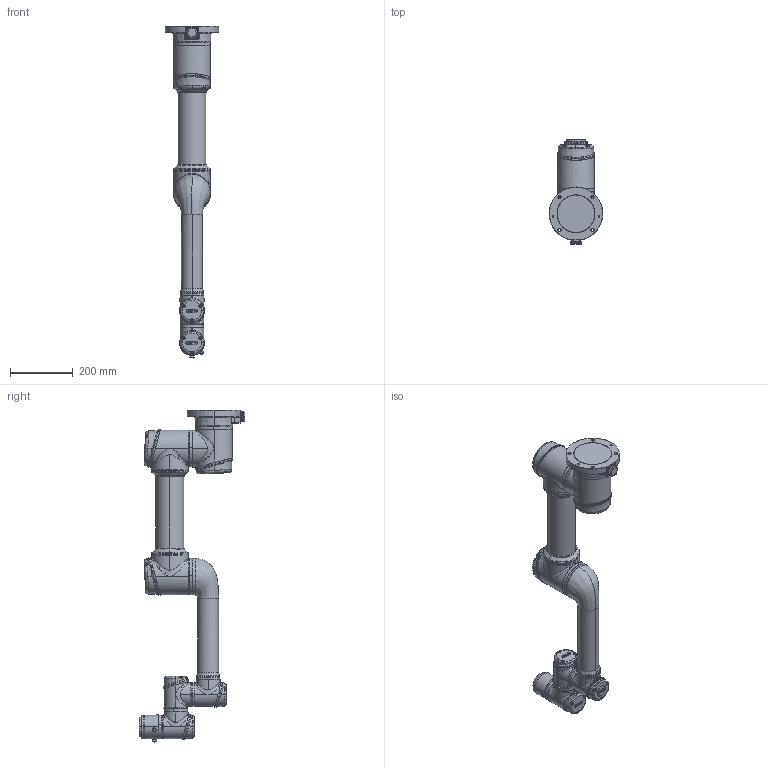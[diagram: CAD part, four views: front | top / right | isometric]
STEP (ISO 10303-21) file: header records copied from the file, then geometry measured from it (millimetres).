
FILE_DESCRIPTION (( 'STEP AP214' ), '1' );
FILE_NAME ('AUBO-iS7(FT)-DRW_Robot_Machine_A0.STEP', '2025-11-04T07:47:25', ( '' ), ( '' ), 'SwSTEP 2.0', 'SolidWorks 2024', '' );
FILE_SCHEMA (( 'AUTOMOTIVE_DESIGN' ));
Length unit declared in the file: millimetre
Products named in the file (9): iS7小臂（简化）; iS7-ID1; iS7-ID6; 十字盘头M3X8 304_GB_CROSS_SCREWS_TYPE1 M3X8-8  H type-N; AUBO-6D末端; iS7-ID5; iS7-大臂; i5-底座; AUBO-iS7(FT)-DRW_Robot_Machine_A0
Assembly tree (8 placements, depth 2):
  AUBO-iS7(FT)-DRW_Robot_Machine_A0
    i5-底座
    iS7-ID1
    iS7-大臂
    iS7小臂（简化）
    iS7-ID5
    iS7-ID6
    AUBO-6D末端
    十字盘头M3X8 304_GB_CROSS_SCREWS_TYPE1 M3X8-8  H type-N
Bounding box: 170.35 x 334.85 x 1056.5 mm (x, y, z)
Volume: 11022582.2 mm3; surface area: 864314.9 mm2
Topology: 21 solids, 43 shells, 4161 faces, 10561 edges, 6620 vertices
Faces by surface type: plane 1264, cylinder 1080, bspline 1039, torus 390, cone 360, sphere 28
Entity records: 298174 total; most frequent: CARTESIAN_POINT 163189, ORIENTED_EDGE 21048, DIRECTION 17013, EDGE_CURVE 10524, AXIS2_PLACEMENT_3D 6825, VERTEX_POINT 6620, EDGE_LOOP 4430, ADVANCED_FACE 4161
